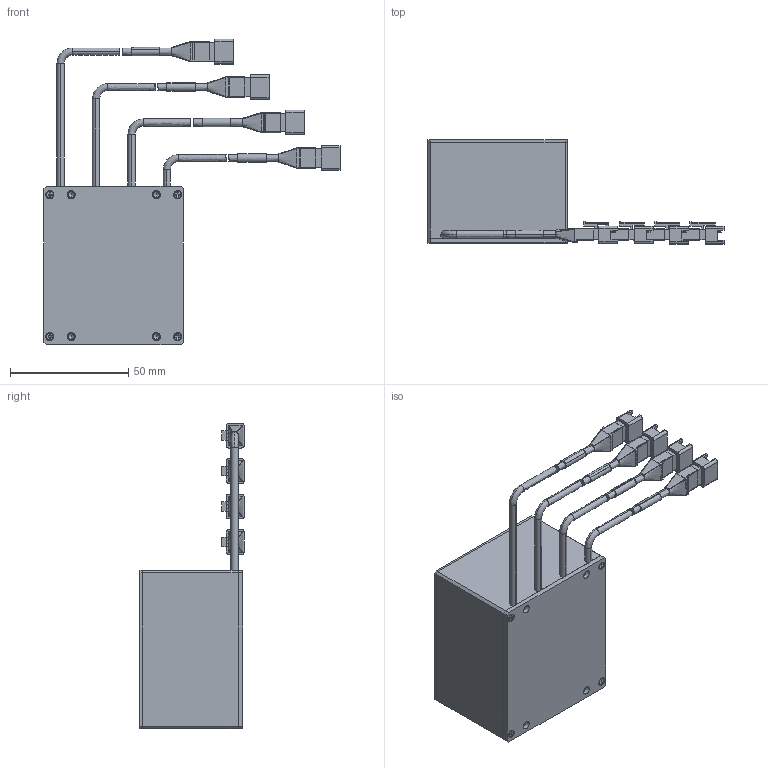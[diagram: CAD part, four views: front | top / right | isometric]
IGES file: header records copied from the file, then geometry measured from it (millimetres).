
Start section: SolidWorks IGES file using NURBS representation for surfaces
Bounding box: 125.2 x 44.05 x 129.25 mm (x, y, z)
Surface area: 47955.6 mm2 (no closed solid volume)
Topology: 0 solids, 0 shells, 992 faces, 8196 edges, 8164 vertices
Faces by surface type: bspline 992
